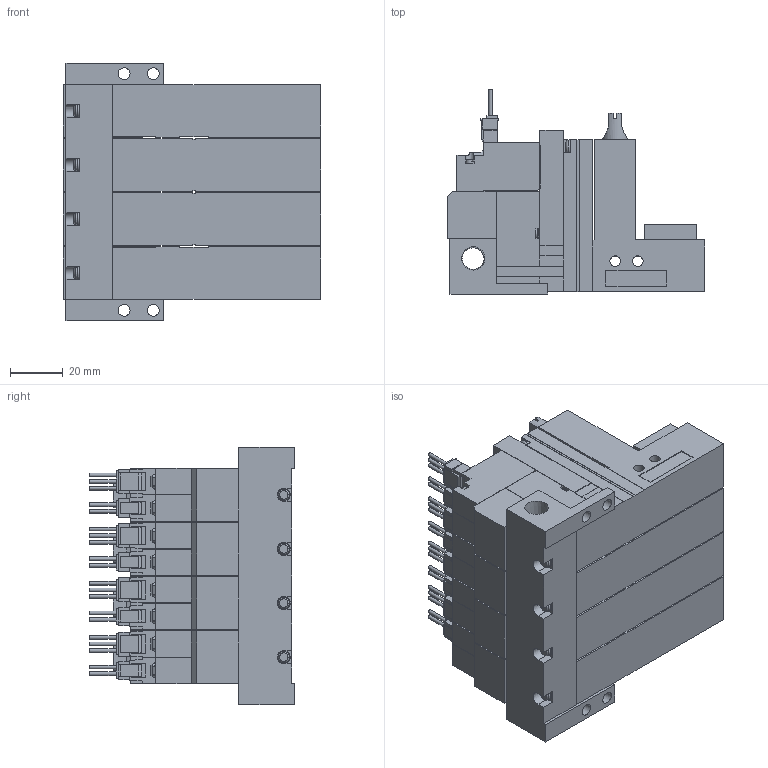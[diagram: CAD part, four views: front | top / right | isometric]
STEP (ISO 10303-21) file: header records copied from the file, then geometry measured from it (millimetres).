
FILE_DESCRIPTION(('STEP AP203'),'1');
FILE_NAME('ZLC5WLR404.stp','2025-02-18T23:29:55',(' '),(' '),'Spatial InterOp 3D',' ',' ');
FILE_SCHEMA(('CONFIG_CONTROL_DESIGN'));
Length unit declared in the file: millimetre
Products named in the file (5): BMC22M※※※※ZLC5WLR404; Solenoid valve W; Pressure sensor ZLC; Unit LC; Base MR40R
Assembly tree (13 placements, depth 2):
  BMC22M※※※※ZLC5WLR404
    Solenoid valve W  x4
    Pressure sensor ZLC  x4
    Unit LC  x4
    Base MR40R
Bounding box: 97.6 x 77.45 x 97.5 mm (x, y, z)
Volume: 362159.3 mm3; surface area: 96976 mm2
Topology: 13 solids, 13 shells, 1473 faces, 3999 edges, 2628 vertices
Faces by surface type: plane 1270, cylinder 153, cone 30, torus 20
Full cylindrical faces by diameter (mm): 1.4 x20, 2.5 x4, 3 x16, 3.5 x16, 3.6 x4, 4 x8, 4.134 x4, 4.5 x4, 5.2 x4, 6 x4, 6.6 x4, 8.279 x1
Entity records: 13489 total; most frequent: CARTESIAN_POINT 2581, ORIENTED_EDGE 2134, DIRECTION 2127, EDGE_CURVE 1067, LINE 885, VECTOR 885, VERTEX_POINT 739, AXIS2_PLACEMENT_3D 621
